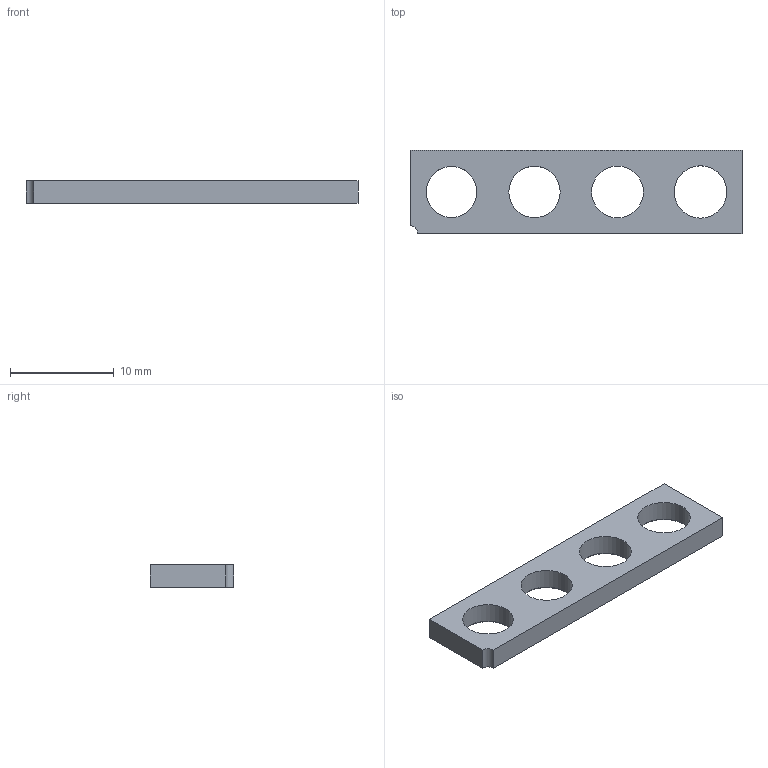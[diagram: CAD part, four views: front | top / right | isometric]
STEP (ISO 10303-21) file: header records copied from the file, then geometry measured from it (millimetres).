
FILE_DESCRIPTION(('Open CASCADE Model'),'2;1');
FILE_NAME('Open CASCADE Shape Model','2026-11-25T01:59:35',('Author'),( 'Open CASCADE'),'Open CASCADE STEP processor 7.9','Open CASCADE 7.9' ,'Unknown');
FILE_SCHEMA(('AUTOMOTIVE_DESIGN { 1 0 10303 214 1 1 1 1 }'));
Length unit declared in the file: millimetre
Products named in the file (1): Open CASCADE STEP translator 7.9 8
Bounding box: 32 x 8 x 2.15 mm (x, y, z)
Volume: 381 mm3; surface area: 654.2 mm2
Topology: 1 solids, 1 shells, 15 faces, 35 edges, 22 vertices
Faces by surface type: plane 6, cylinder 5, cone 4
Full cylindrical faces by diameter (mm): 4.9 x1, 4.95 x1, 5 x1, 5.05 x1
Entity records: 928 total; most frequent: CARTESIAN_POINT 181, DIRECTION 143, LINE 79, VECTOR 79, ORIENTED_EDGE 70, PCURVE 70, DEFINITIONAL_REPRESENTATION 70, EDGE_CURVE 35
